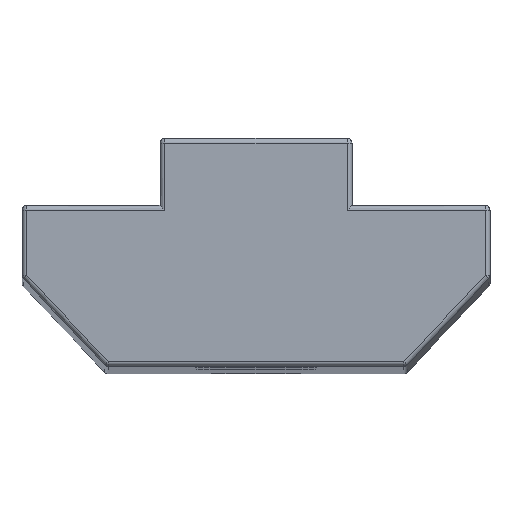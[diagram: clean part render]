
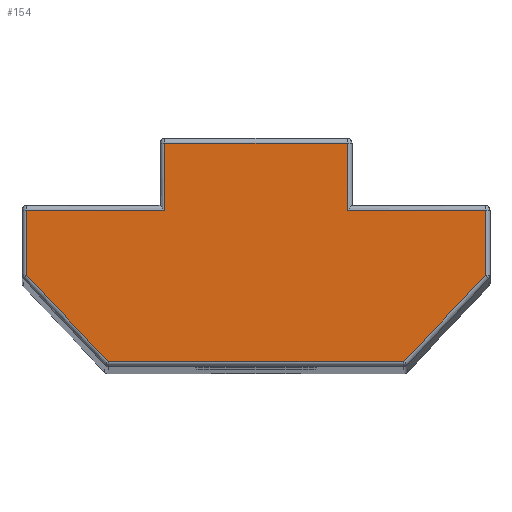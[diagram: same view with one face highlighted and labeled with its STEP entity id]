
A CAD part, top view. The second image highlights one B-rep face of the part: STEP entity #154.
In plain terms, the highlighted planar face has unit normal (0, 0, 1).
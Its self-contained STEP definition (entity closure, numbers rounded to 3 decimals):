
#16 = CARTESIAN_POINT ( 'NONE',  ( 3.8, 0., 90. ) ) ;
#22 = VECTOR ( 'NONE', #977, 1000. ) ;
#23 = VERTEX_POINT ( 'NONE', #837 ) ;
#31 = CARTESIAN_POINT ( 'NONE',  ( 0., 0.2, 90. ) ) ;
#53 = ORIENTED_EDGE ( 'NONE', *, *, #1595, .T. ) ;
#57 = ORIENTED_EDGE ( 'NONE', *, *, #1000, .T. ) ;
#59 = AXIS2_PLACEMENT_3D ( 'NONE', #527, #524, #386 ) ;
#98 = CARTESIAN_POINT ( 'NONE',  ( 3.153, -2.983, 90. ) ) ;
#110 = VECTOR ( 'NONE', #390, 1000. ) ;
#112 = EDGE_LOOP ( 'NONE', ( #925, #1042, #448, #53, #1645, #57, #682, #834, #599, #880 ) ) ;
#124 = CARTESIAN_POINT ( 'NONE',  ( 0., 9.3, 90. ) ) ;
#131 = EDGE_CURVE ( 'NONE', #1325, #766, #490, .T. ) ;
#154 = ADVANCED_FACE ( 'NONE', ( #1110 ), #237, .F. ) ;
#161 = LINE ( 'NONE', #1377, #1205 ) ;
#178 = VECTOR ( 'NONE', #1279, 1000. ) ;
#189 = CARTESIAN_POINT ( 'NONE',  ( -9.55, 6.5, 90. ) ) ;
#196 = CARTESIAN_POINT ( 'NONE',  ( -3.8, 9.3, 90. ) ) ;
#220 = LINE ( 'NONE', #1403, #178 ) ;
#237 = PLANE ( 'NONE',  #59 ) ;
#239 = DIRECTION ( 'NONE',  ( -1., 0., 0. ) ) ;
#272 = EDGE_CURVE ( 'NONE', #345, #1663, #1266, .T. ) ;
#281 = VECTOR ( 'NONE', #912, 1000. ) ;
#290 = VERTEX_POINT ( 'NONE', #1491 ) ;
#293 = DIRECTION ( 'NONE',  ( -1., 0., 0. ) ) ;
#336 = EDGE_CURVE ( 'NONE', #1092, #23, #220, .T. ) ;
#345 = VERTEX_POINT ( 'NONE', #1010 ) ;
#386 = DIRECTION ( 'NONE',  ( -1., 0., 0. ) ) ;
#390 = DIRECTION ( 'NONE',  ( 0.687, 0.726, 0. ) ) ;
#395 = LINE ( 'NONE', #1382, #22 ) ;
#436 = DIRECTION ( 'NONE',  ( 0., 1., 0. ) ) ;
#445 = DIRECTION ( 'NONE',  ( 1., 0., 0. ) ) ;
#448 = ORIENTED_EDGE ( 'NONE', *, *, #336, .T. ) ;
#472 = CARTESIAN_POINT ( 'NONE',  ( -9.55, 3.78, 90. ) ) ;
#490 = LINE ( 'NONE', #98, #110 ) ;
#524 = DIRECTION ( 'NONE',  ( 0., 0., -1. ) ) ;
#527 = CARTESIAN_POINT ( 'NONE',  ( 0., 0., 90. ) ) ;
#531 = CARTESIAN_POINT ( 'NONE',  ( -9.55, 0., 90. ) ) ;
#567 = LINE ( 'NONE', #531, #898 ) ;
#580 = VERTEX_POINT ( 'NONE', #1191 ) ;
#585 = EDGE_CURVE ( 'NONE', #863, #1092, #567, .T. ) ;
#599 = ORIENTED_EDGE ( 'NONE', *, *, #272, .T. ) ;
#638 = EDGE_CURVE ( 'NONE', #290, #945, #1483, .T. ) ;
#655 = EDGE_CURVE ( 'NONE', #580, #863, #395, .T. ) ;
#682 = ORIENTED_EDGE ( 'NONE', *, *, #638, .T. ) ;
#692 = CARTESIAN_POINT ( 'NONE',  ( 0., 6.5, 90. ) ) ;
#766 = VERTEX_POINT ( 'NONE', #1520 ) ;
#834 = ORIENTED_EDGE ( 'NONE', *, *, #1555, .T. ) ;
#837 = CARTESIAN_POINT ( 'NONE',  ( -6.164, 0.2, 90. ) ) ;
#863 = VERTEX_POINT ( 'NONE', #189 ) ;
#880 = ORIENTED_EDGE ( 'NONE', *, *, #1216, .T. ) ;
#898 = VECTOR ( 'NONE', #1474, 1000. ) ;
#912 = DIRECTION ( 'NONE',  ( 0., 1., 0. ) ) ;
#918 = VECTOR ( 'NONE', #239, 1000. ) ;
#925 = ORIENTED_EDGE ( 'NONE', *, *, #655, .T. ) ;
#945 = VERTEX_POINT ( 'NONE', #1152 ) ;
#977 = DIRECTION ( 'NONE',  ( -1., 0., 0. ) ) ;
#1000 = EDGE_CURVE ( 'NONE', #766, #290, #1368, .T. ) ;
#1010 = CARTESIAN_POINT ( 'NONE',  ( 3.8, 9.3, 90. ) ) ;
#1042 = ORIENTED_EDGE ( 'NONE', *, *, #585, .T. ) ;
#1092 = VERTEX_POINT ( 'NONE', #472 ) ;
#1110 = FACE_OUTER_BOUND ( 'NONE', #112, .T. ) ;
#1111 = VECTOR ( 'NONE', #293, 1000. ) ;
#1152 = CARTESIAN_POINT ( 'NONE',  ( 3.8, 6.5, 90. ) ) ;
#1170 = CARTESIAN_POINT ( 'NONE',  ( 9.55, 0., 90. ) ) ;
#1191 = CARTESIAN_POINT ( 'NONE',  ( -3.8, 6.5, 90. ) ) ;
#1205 = VECTOR ( 'NONE', #1647, 1000. ) ;
#1216 = EDGE_CURVE ( 'NONE', #1663, #580, #161, .T. ) ;
#1244 = VECTOR ( 'NONE', #445, 1000. ) ;
#1266 = LINE ( 'NONE', #124, #918 ) ;
#1279 = DIRECTION ( 'NONE',  ( 0.687, -0.726, 0. ) ) ;
#1325 = VERTEX_POINT ( 'NONE', #1547 ) ;
#1339 = LINE ( 'NONE', #16, #1646 ) ;
#1368 = LINE ( 'NONE', #1170, #281 ) ;
#1377 = CARTESIAN_POINT ( 'NONE',  ( -3.8, 0., 90. ) ) ;
#1382 = CARTESIAN_POINT ( 'NONE',  ( 0., 6.5, 90. ) ) ;
#1403 = CARTESIAN_POINT ( 'NONE',  ( -3.153, -2.983, 90. ) ) ;
#1474 = DIRECTION ( 'NONE',  ( 0., -1., 0. ) ) ;
#1483 = LINE ( 'NONE', #692, #1111 ) ;
#1491 = CARTESIAN_POINT ( 'NONE',  ( 9.55, 6.5, 90. ) ) ;
#1520 = CARTESIAN_POINT ( 'NONE',  ( 9.55, 3.78, 90. ) ) ;
#1547 = CARTESIAN_POINT ( 'NONE',  ( 6.164, 0.2, 90. ) ) ;
#1555 = EDGE_CURVE ( 'NONE', #945, #345, #1339, .T. ) ;
#1595 = EDGE_CURVE ( 'NONE', #23, #1325, #1703, .T. ) ;
#1645 = ORIENTED_EDGE ( 'NONE', *, *, #131, .T. ) ;
#1646 = VECTOR ( 'NONE', #436, 1000. ) ;
#1647 = DIRECTION ( 'NONE',  ( 0., -1., 0. ) ) ;
#1663 = VERTEX_POINT ( 'NONE', #196 ) ;
#1703 = LINE ( 'NONE', #31, #1244 ) ;
